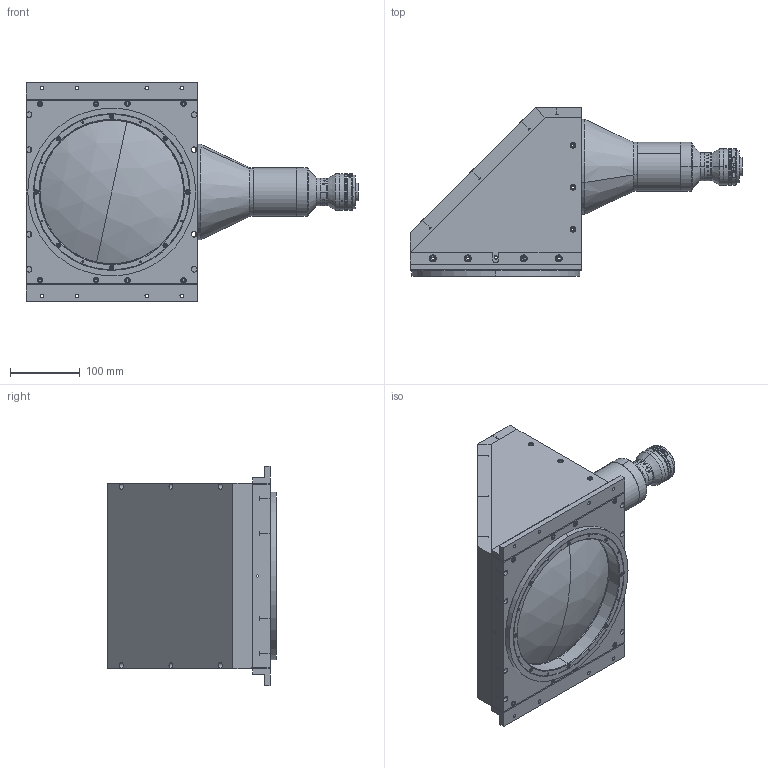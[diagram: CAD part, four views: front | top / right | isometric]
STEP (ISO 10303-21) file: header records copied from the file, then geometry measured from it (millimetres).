
FILE_DESCRIPTION (( 'STEP AP203' ), '1' );
FILE_NAME ('XF-PTL19516-C-L90E.STEP', '2019-07-22T08:30:23', ( 'puyufan' ), ( '' ), 'SwSTEP 2.0', 'SolidWorks 2014', '' );
FILE_SCHEMA (( 'CONFIG_CONTROL_DESIGN' ));
Length unit declared in the file: millimetre
Products named in the file (1): XF-PTL19516-C-L90E
Bounding box: 474.43 x 241.14 x 313 mm (x, y, z)
Surface area: 553833.5 mm2 (no closed solid volume)
Topology: 0 solids, 93 shells, 695 faces, 2531 edges, 1897 vertices
Faces by surface type: plane 330, cylinder 250, torus 70, cone 40, sphere 4, bspline 1
Entity records: 32410 total; most frequent: CARTESIAN_POINT 10839, DIRECTION 4612, ORIENTED_EDGE 3735, EDGE_CURVE 2515, VERTEX_POINT 1897, AXIS2_PLACEMENT_3D 1660, LINE 1292, VECTOR 1292
